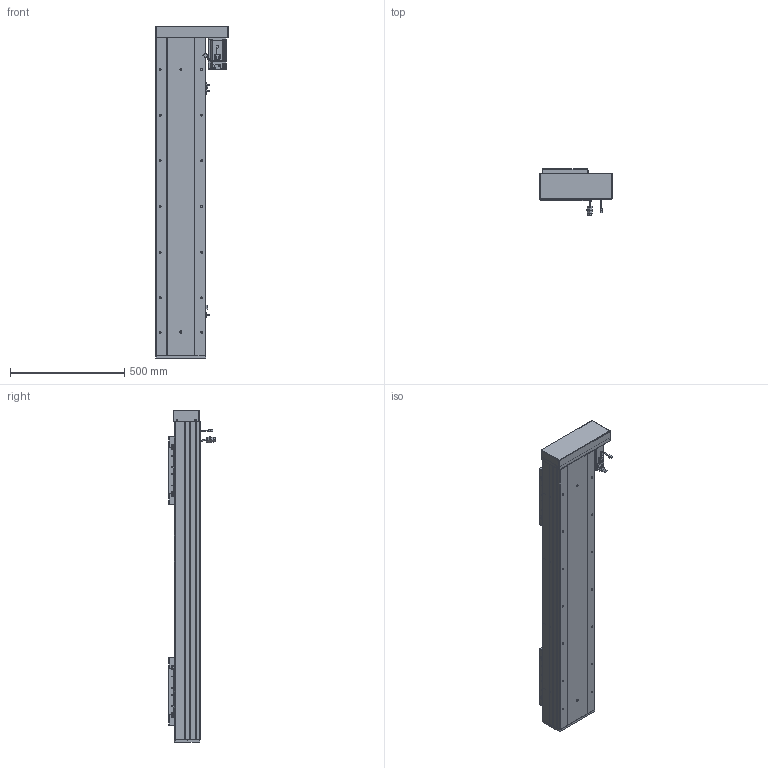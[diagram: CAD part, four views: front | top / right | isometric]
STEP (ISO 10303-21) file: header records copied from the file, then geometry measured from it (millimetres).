
FILE_DESCRIPTION (( 'STEP AP203' ), '1' );
FILE_NAME ('RY220F-L2525-800-RK-邧嶺.SLDASM_950.step', '2022-08-06T08:19:01', ( '' ), ( '' ), 'SwSTEP 2.0', 'SolidWorks 2016', '' );
FILE_SCHEMA (( 'CONFIG_CONTROL_DESIGN' ));
Length unit declared in the file: millimetre
Products named in the file (15): 覜茼ん672; RY220F-蛌殏奻裔啣-800_950; RY220F-L2525-800-RK-邧嶺.SLDASM_950; RY220F-672覜茼んえ; 侐源滅袉蝶; RY220F-祥凄詩湍-蛌殏-800_950; 滅袉蝶18-24; RY220F-詩湍揤踡輸; RY220F蛌殏菁釱-800-邧嶺_950; RY220F-滅鳥奻裔; 怢湛750W_ECMA-CX0807ES; RY220F綴裔啣; RY220左右折电机安装板; RY220酘衵殏萇儂欶; RY220F臏賑釱25-32佪裝
Assembly tree (24 placements, depth 2):
  RY220F-L2525-800-RK-邧嶺.SLDASM_950
    RY220F蛌殏菁釱-800-邧嶺_950
    RY220F-蛌殏奻裔啣-800_950  x2
    怢湛750W_ECMA-CX0807ES
    RY220F臏賑釱25-32佪裝  x2
    RY220F-滅鳥奻裔  x2
    滅袉蝶18-24  x3
    RY220F綴裔啣
    RY220F-祥凄詩湍-蛌殏-800_950
    RY220F-詩湍揤踡輸  x2
    覜茼ん672  x3
    RY220F-672覜茼んえ  x2
    RY220左右折电机安装板
    RY220酘衵殏萇儂欶
    侐源滅袉蝶  x2
Bounding box: 317.5 x 205.27 x 1453 mm (x, y, z)
Volume: 14295760.9 mm3; surface area: 3734218.5 mm2
Topology: 25 solids, 25 shells, 2752 faces, 7488 edges, 4638 vertices
Faces by surface type: cylinder 1238, plane 1044, cone 399, bspline 45, sphere 16, torus 10
Entity records: 68228 total; most frequent: CARTESIAN_POINT 18571, ORIENTED_EDGE 10038, DIRECTION 9744, EDGE_CURVE 5019, AXIS2_PLACEMENT_3D 3462, VERTEX_POINT 3254, VECTOR 2820, LINE 2820
